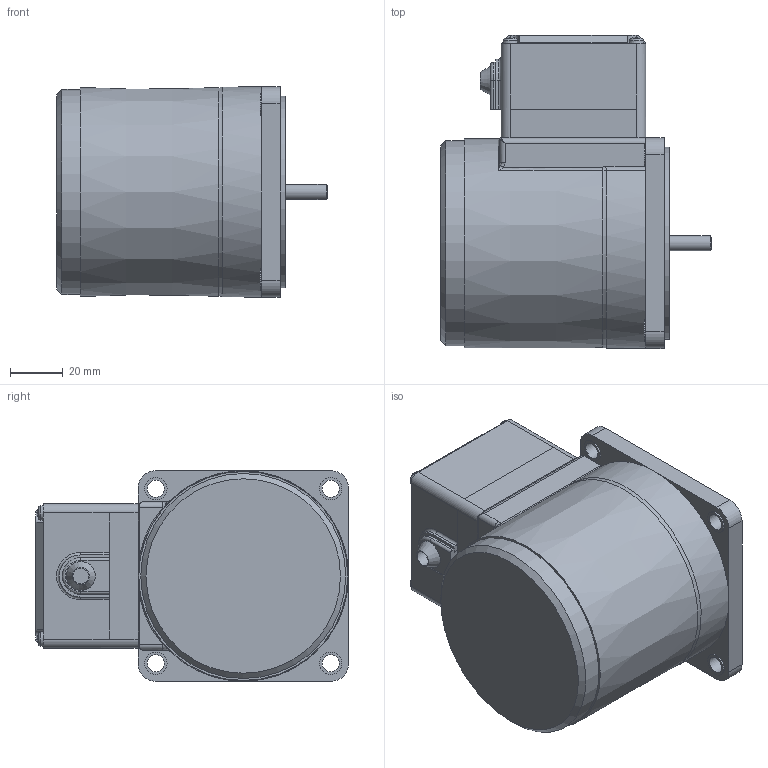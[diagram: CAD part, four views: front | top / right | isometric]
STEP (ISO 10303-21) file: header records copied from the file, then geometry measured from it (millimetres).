
FILE_DESCRIPTION(/* description */ (''),/* implementation_level */ '2;1');
FILE_NAME(/* name */ 'E:\도면작업\2016\0704) 미주향 SG 도면\3D MOTOR\TERMINAL BOX TYPE\INDUCTION TERMINAL BOX\SG8I25G_-T1.stp',/* time_stamp */ '2017-01-23T18:11:59+09:00',/* author */ ('jy-jung'),/* organization */ (''),/* preprocessor_version */ 'ST-DEVELOPER v15.6',/* originating_system */ 'Autodesk Inventor 2015',/* authorisation */ '');
FILE_SCHEMA (('AUTOMOTIVE_DESIGN { 1 0 10303 214 3 1 1 }'));
Length unit declared in the file: millimetre
Products named in the file (1): 부품4
Bounding box: 103 x 119 x 80 mm (x, y, z)
Volume: 555826.8 mm3; surface area: 46416.1 mm2
Topology: 1 solids, 2 shells, 257 faces, 665 edges, 424 vertices
Faces by surface type: plane 116, cylinder 54, cone 44, torus 24, bspline 15, sphere 4
Full cylindrical faces by diameter (mm): 5.72 x1, 6.5 x4, 8 x1, 8.5 x4, 34 x1, 73 x1, 78 x1
Entity records: 8577 total; most frequent: CARTESIAN_POINT 2342, DIRECTION 1256, ORIENTED_EDGE 1254, EDGE_CURVE 627, AXIS2_PLACEMENT_3D 491, VERTEX_POINT 418, EDGE_LOOP 309, LINE 274
